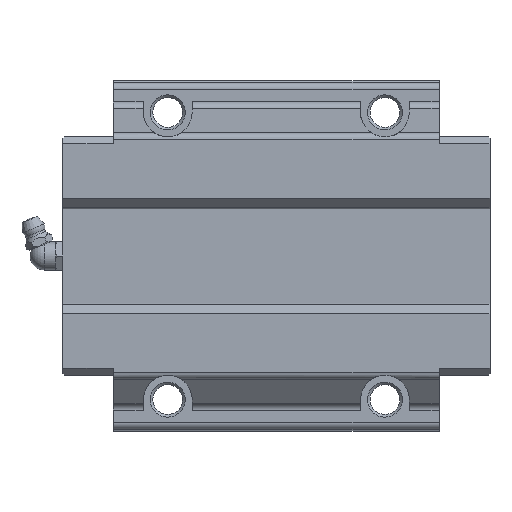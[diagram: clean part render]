
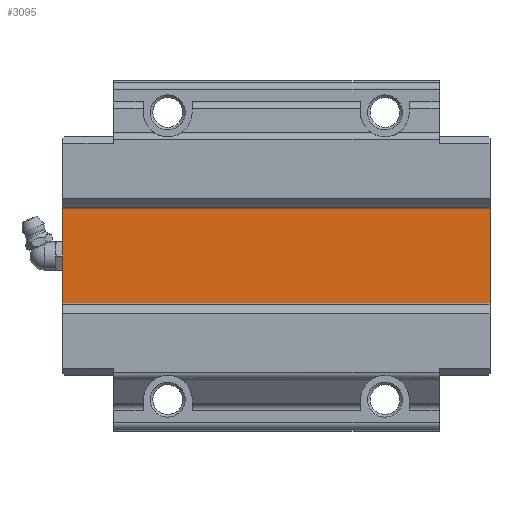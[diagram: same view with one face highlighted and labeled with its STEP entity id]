
A CAD part, front view. The second image highlights one B-rep face of the part: STEP entity #3095.
In plain terms, the highlighted planar face has unit normal (0, -1, 0).
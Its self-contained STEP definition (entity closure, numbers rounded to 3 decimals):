
#83=LINE('',#4653,#353);
#125=LINE('',#4773,#395);
#300=LINE('',#5350,#570);
#301=LINE('',#5352,#571);
#353=VECTOR('',#3648,1000.);
#395=VECTOR('',#3742,1000.);
#570=VECTOR('',#4253,1000.);
#571=VECTOR('',#4256,1000.);
#661=PLANE('',#3414);
#1653=ORIENTED_EDGE('',*,*,#1882,.F.);
#1654=ORIENTED_EDGE('',*,*,#2135,.F.);
#1655=ORIENTED_EDGE('',*,*,#1821,.T.);
#1656=ORIENTED_EDGE('',*,*,#2136,.T.);
#1821=EDGE_CURVE('',#2228,#2227,#83,.T.);
#1882=EDGE_CURVE('',#2279,#2280,#125,.T.);
#2135=EDGE_CURVE('',#2228,#2279,#300,.T.);
#2136=EDGE_CURVE('',#2227,#2280,#301,.T.);
#2227=VERTEX_POINT('',#4652);
#2228=VERTEX_POINT('',#4654);
#2279=VERTEX_POINT('',#4772);
#2280=VERTEX_POINT('',#4774);
#2671=EDGE_LOOP('',(#1653,#1654,#1655,#1656));
#2890=FACE_BOUND('',#2671,.T.);
#3095=ADVANCED_FACE('',(#2890),#661,.T.);
#3414=AXIS2_PLACEMENT_3D('',#5351,#4254,#4255);
#3648=DIRECTION('',(0.,0.,1.));
#3742=DIRECTION('',(0.,0.,1.));
#4253=DIRECTION('',(-1.,0.,0.));
#4254=DIRECTION('',(0.,-1.,0.));
#4255=DIRECTION('',(0.,0.,-1.));
#4256=DIRECTION('',(-1.,0.,0.));
#4652=CARTESIAN_POINT('',(61.,18.5,14.018));
#4653=CARTESIAN_POINT('',(61.,18.5,-14.018));
#4654=CARTESIAN_POINT('',(61.,18.5,-14.018));
#4772=CARTESIAN_POINT('',(-61.,18.5,-14.018));
#4773=CARTESIAN_POINT('',(-61.,18.5,-14.018));
#4774=CARTESIAN_POINT('',(-61.,18.5,14.018));
#5350=CARTESIAN_POINT('',(61.,18.5,-14.018));
#5351=CARTESIAN_POINT('',(61.,18.5,-14.018));
#5352=CARTESIAN_POINT('',(61.,18.5,14.018));
